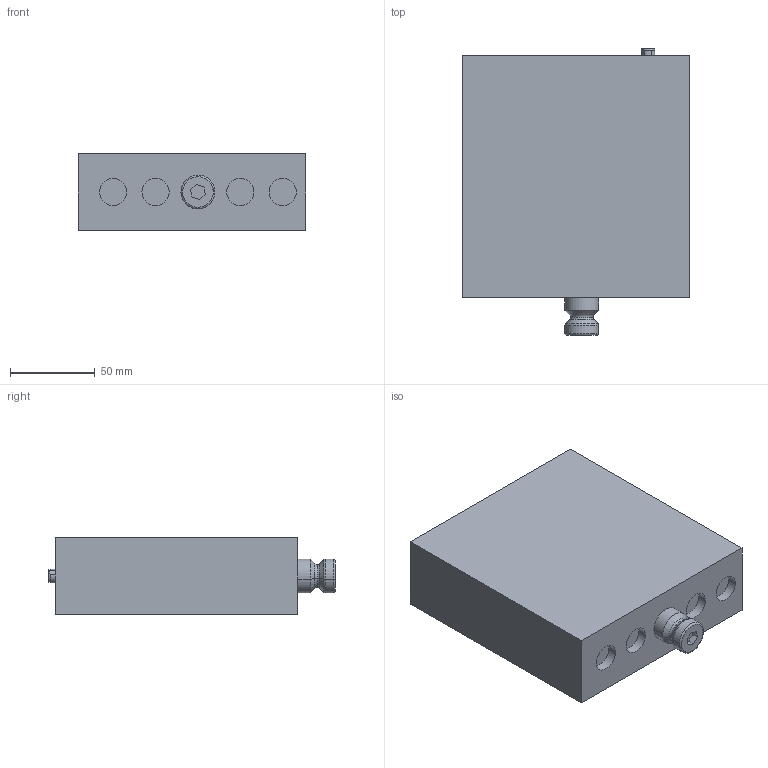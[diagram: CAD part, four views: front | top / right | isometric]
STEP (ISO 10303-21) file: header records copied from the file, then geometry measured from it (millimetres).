
FILE_DESCRIPTION (( 'STEP AP214' ), '1' );
FILE_NAME ('81523.STEP', '2020-10-28T09:07:59', ( '' ), ( '' ), 'SwSTEP 2.0', 'SolidWorks 2019', '' );
FILE_SCHEMA (( 'AUTOMOTIVE_DESIGN' ));
Length unit declared in the file: millimetre
Products named in the file (1): 81523
Bounding box: 134 x 168.9 x 45 mm (x, y, z)
Volume: 856013.3 mm3; surface area: 69157.4 mm2
Topology: 3 solids, 3 shells, 78 faces, 162 edges, 96 vertices
Faces by surface type: cylinder 27, plane 24, cone 17, torus 8, sphere 2
Entity records: 2982 total; most frequent: DIRECTION 392, CARTESIAN_POINT 378, ORIENTED_EDGE 316, AXIS2_PLACEMENT_3D 160, EDGE_CURVE 158, VERTEX_POINT 96, EDGE_LOOP 88, UNCERTAINTY_MEASURE_WITH_UNIT 83
